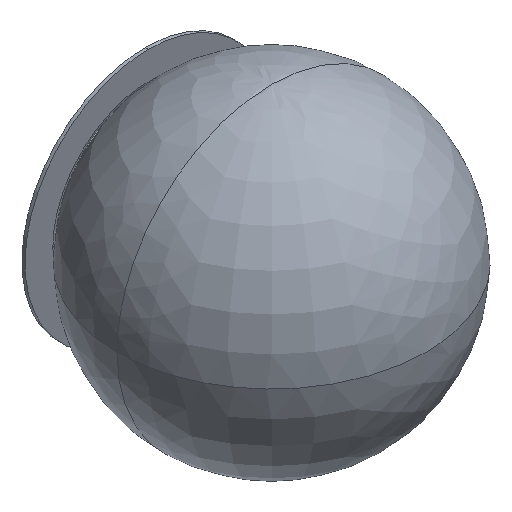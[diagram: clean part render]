
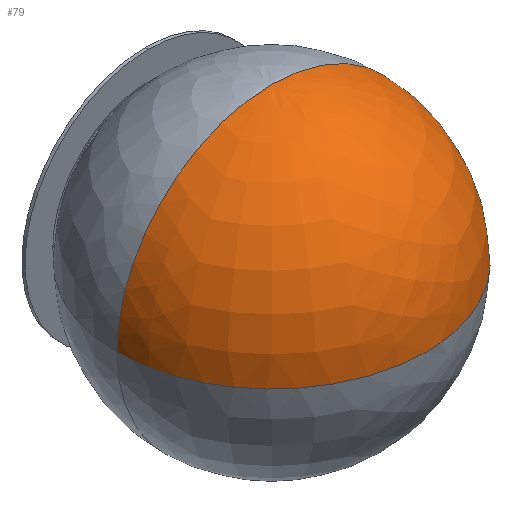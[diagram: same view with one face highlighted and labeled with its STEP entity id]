
A CAD part, isometric view. The second image highlights one B-rep face of the part: STEP entity #79.
In plain terms, the highlighted free-form (B-spline) face has degree [2, 2] with [5, 5] control points.
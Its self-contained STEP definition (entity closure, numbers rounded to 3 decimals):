
#79=ADVANCED_FACE('',(#219),#1954,.T.);
#219=FACE_OUTER_BOUND('',#364,.T.);
#364=EDGE_LOOP('',(#614,#615,#616,#617));
#614=ORIENTED_EDGE('',*,*,#1153,.T.);
#615=ORIENTED_EDGE('',*,*,#1148,.F.);
#616=ORIENTED_EDGE('',*,*,#1161,.F.);
#617=ORIENTED_EDGE('',*,*,#1162,.F.);
#1148=EDGE_CURVE('',#1742,#1743,#1556,.T.);
#1153=EDGE_CURVE('',#1744,#1743,#1561,.T.);
#1161=EDGE_CURVE('',#1747,#1742,#1569,.T.);
#1162=EDGE_CURVE('',#1744,#1747,#1570,.T.);
#1556=(
BOUNDED_CURVE()
B_SPLINE_CURVE(2,(#3401,#3402,#3403),.UNSPECIFIED.,.F.,.F.)
B_SPLINE_CURVE_WITH_KNOTS((3,3),(0.,78.54),.UNSPECIFIED.)
CURVE()
GEOMETRIC_REPRESENTATION_ITEM()
RATIONAL_B_SPLINE_CURVE((1.,0.707,1.))
REPRESENTATION_ITEM('')
);
#1561=(
BOUNDED_CURVE()
B_SPLINE_CURVE(2,(#3420,#3421,#3422),.UNSPECIFIED.,.F.,.F.)
B_SPLINE_CURVE_WITH_KNOTS((3,3),(0.,78.54),.UNSPECIFIED.)
CURVE()
GEOMETRIC_REPRESENTATION_ITEM()
RATIONAL_B_SPLINE_CURVE((1.,0.707,1.))
REPRESENTATION_ITEM('')
);
#1569=(
BOUNDED_CURVE()
B_SPLINE_CURVE(2,(#3446,#3447,#3448),.UNSPECIFIED.,.F.,.F.)
B_SPLINE_CURVE_WITH_KNOTS((3,3),(56.592,135.132),
 .UNSPECIFIED.)
CURVE()
GEOMETRIC_REPRESENTATION_ITEM()
RATIONAL_B_SPLINE_CURVE((1.,0.707,1.))
REPRESENTATION_ITEM('')
);
#1570=(
BOUNDED_CURVE()
B_SPLINE_CURVE(2,(#3449,#3450,#3451),.UNSPECIFIED.,.F.,.F.)
B_SPLINE_CURVE_WITH_KNOTS((3,3),(0.,78.54),.UNSPECIFIED.)
CURVE()
GEOMETRIC_REPRESENTATION_ITEM()
RATIONAL_B_SPLINE_CURVE((1.,0.707,1.))
REPRESENTATION_ITEM('')
);
#1742=VERTEX_POINT('',#3365);
#1743=VERTEX_POINT('',#3366);
#1744=VERTEX_POINT('',#3367);
#1747=VERTEX_POINT('',#3370);
#1954=(
BOUNDED_SURFACE()
B_SPLINE_SURFACE(2,2,((#3303,#3304,#3305,#3306,#3307),(#3308,#3309,#3310,
#3311,#3312),(#3313,#3314,#3315,#3316,#3317),(#3318,#3319,#3320,#3321,#3322),
(#3323,#3324,#3325,#3326,#3327)),.UNSPECIFIED.,.F.,.F.,.F.)
B_SPLINE_SURFACE_WITH_KNOTS((3,2,3),(3,2,3),(157.08,235.619,
314.159),(0.,78.54,157.08),.UNSPECIFIED.)
GEOMETRIC_REPRESENTATION_ITEM()
RATIONAL_B_SPLINE_SURFACE(((1.,0.707,1.,0.707,1.),
(0.707,0.5,0.707,0.5,0.707),(1.,0.707,
1.,0.707,1.),(0.707,0.5,0.707,0.5,0.707),
(1.,0.707,1.,0.707,1.)))
REPRESENTATION_ITEM('')
SURFACE()
);
#3303=CARTESIAN_POINT('',(0.,-40.76,50.));
#3304=CARTESIAN_POINT('',(50.,-40.76,50.));
#3305=CARTESIAN_POINT('',(50.,-40.76,0.));
#3306=CARTESIAN_POINT('',(50.,-40.76,-50.));
#3307=CARTESIAN_POINT('',(0.,-40.76,-50.));
#3308=CARTESIAN_POINT('',(0.,-40.76,50.));
#3309=CARTESIAN_POINT('',(50.,-90.76,50.));
#3310=CARTESIAN_POINT('',(50.,-90.76,0.));
#3311=CARTESIAN_POINT('',(50.,-90.76,-50.));
#3312=CARTESIAN_POINT('',(0.,-40.76,-50.));
#3313=CARTESIAN_POINT('',(0.,-40.76,50.));
#3314=CARTESIAN_POINT('',(0.,-90.76,50.));
#3315=CARTESIAN_POINT('',(0.,-90.76,0.));
#3316=CARTESIAN_POINT('',(0.,-90.76,-50.));
#3317=CARTESIAN_POINT('',(0.,-40.76,-50.));
#3318=CARTESIAN_POINT('',(0.,-40.76,50.));
#3319=CARTESIAN_POINT('',(-50.,-90.76,50.));
#3320=CARTESIAN_POINT('',(-50.,-90.76,0.));
#3321=CARTESIAN_POINT('',(-50.,-90.76,-50.));
#3322=CARTESIAN_POINT('',(0.,-40.76,-50.));
#3323=CARTESIAN_POINT('',(0.,-40.76,50.));
#3324=CARTESIAN_POINT('',(-50.,-40.76,50.));
#3325=CARTESIAN_POINT('',(-50.,-40.76,0.));
#3326=CARTESIAN_POINT('',(-50.,-40.76,-50.));
#3327=CARTESIAN_POINT('',(0.,-40.76,-50.));
#3365=CARTESIAN_POINT('',(0.,-90.76,0.));
#3366=CARTESIAN_POINT('',(-50.,-40.76,0.));
#3367=CARTESIAN_POINT('',(0.,-40.76,50.));
#3370=CARTESIAN_POINT('',(50.,-40.76,0.));
#3401=CARTESIAN_POINT('',(0.,-90.76,0.));
#3402=CARTESIAN_POINT('',(-50.,-90.76,0.));
#3403=CARTESIAN_POINT('',(-50.,-40.76,0.));
#3420=CARTESIAN_POINT('',(0.,-40.76,50.));
#3421=CARTESIAN_POINT('',(-50.,-40.76,50.));
#3422=CARTESIAN_POINT('',(-50.,-40.76,0.));
#3446=CARTESIAN_POINT('',(50.,-40.76,0.));
#3447=CARTESIAN_POINT('',(50.,-90.76,0.));
#3448=CARTESIAN_POINT('',(0.,-90.76,0.));
#3449=CARTESIAN_POINT('',(0.,-40.76,50.));
#3450=CARTESIAN_POINT('',(50.,-40.76,50.));
#3451=CARTESIAN_POINT('',(50.,-40.76,0.));
